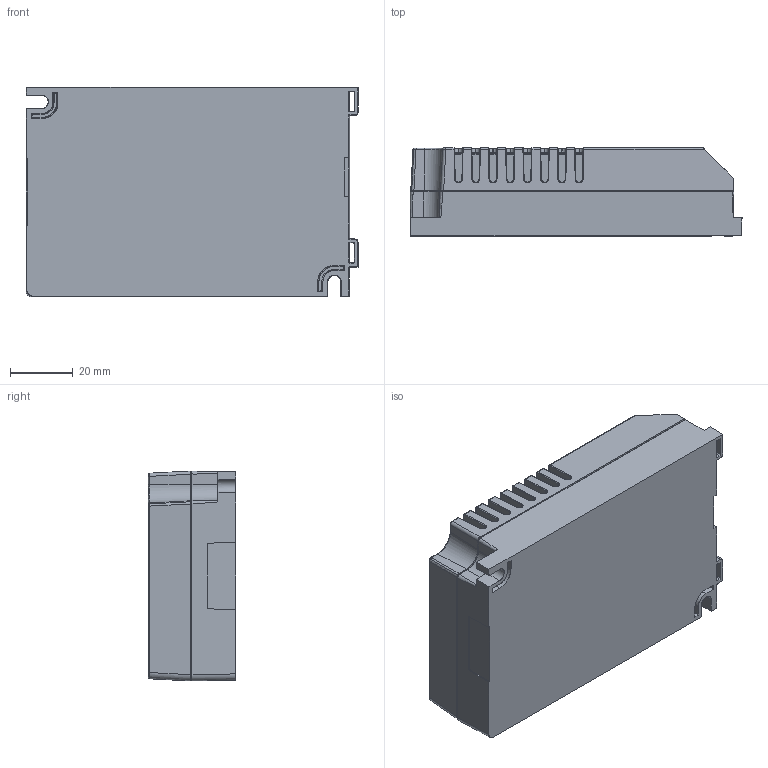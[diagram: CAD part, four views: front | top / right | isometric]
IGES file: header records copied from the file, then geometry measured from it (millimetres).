
Start section: SolidWorks IGES file using analytic representation for surfaces
Global section: file name: C:\Users\vuorinen_kari\Desktop\prj\LC1x30\LC1x35.IGS; native system: SolidWorks 2014; preprocessor: SolidWorks 2014; author: vuorinen_kari; date: 151221.133028; units: millimetre
Bounding box: 106 x 28 x 67 mm (x, y, z)
Surface area: 42561.4 mm2 (no closed solid volume)
Topology: 0 solids, 0 shells, 718 faces, 6758 edges, 6756 vertices
Faces by surface type: bspline 388, revolution 330
